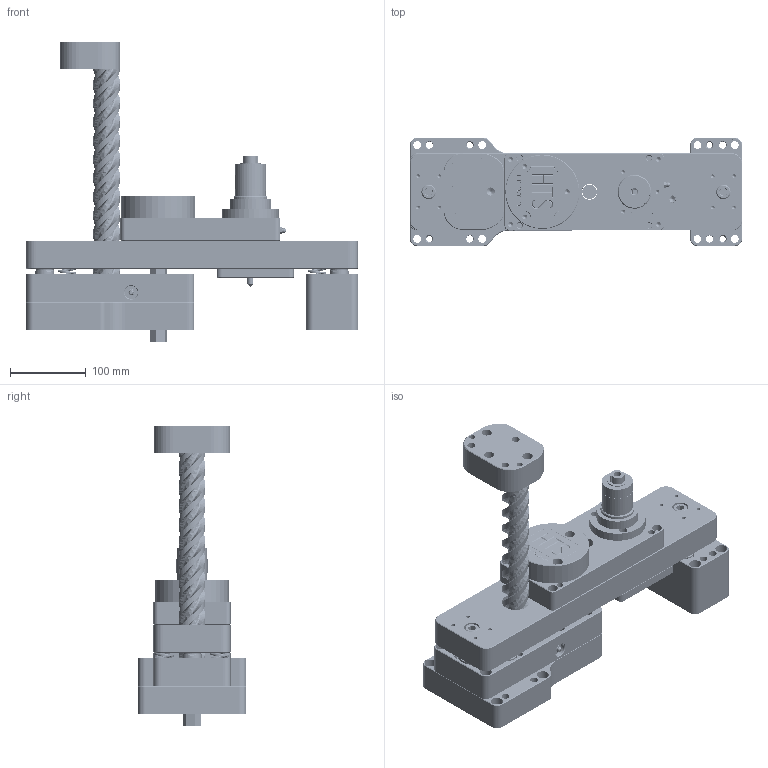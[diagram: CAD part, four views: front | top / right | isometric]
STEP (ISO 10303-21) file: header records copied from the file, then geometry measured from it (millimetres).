
FILE_DESCRIPTION(/* description */ ('Unknown'),/* implementation_level */ '2;1');
FILE_NAME(/* name */ '6100-8instrk',/* time_stamp */ '2018-07-30T07:57:43-04:00',/* author */ ('Unknown'),/* organization */ ('Unknown'),/* preprocessor_version */ 'ST-DEVELOPER v16.7',/* originating_system */ 'DEX',/* authorisation */ $);
FILE_SCHEMA (('AUTOMOTIVE_DESIGN {1 0 10303 214 3 1 1}'));
Products named in the file (28): 6100-000 NEW STD; Tap 5_16-18; 6022-5_16-18; 6020-018; 6025-000; 6119-000; 6107A-000C; 6147-005; 6107B-000C; 6136-M8.0F; 6137A-000-2pstd; 6017-000; 6138-300; BASE-GK95-L_BASE-GK95-L2-E; 6011-008FA; 3_8-16X750_SHCS; 1_2-13X1-1_2 SHCS; 6129-200; RETAININGRING-EXTERNAL-STANDARD; BUSHING-BU-1_0ID-2_0LONG_BUSHIN; 6107C-000-std; 6106B-000-std; 6106A-000-std; 6008-000; 6121-000; 6109-000; 6118A-000; 6012-000
Assembly tree (43 placements, depth 2):
  6100-000 NEW STD
    Tap 5_16-18
    6022-5_16-18
    6020-018
    6025-000
    6119-000
    6107A-000C
    6147-005
    6107B-000C
    6136-M8.0F
    6137A-000-2pstd
    6017-000  x2
    6138-300  x2
    BASE-GK95-L_BASE-GK95-L2-E  x2
    6011-008FA
    3_8-16X750_SHCS  x8
    1_2-13X1-1_2 SHCS  x2
    6129-200  x4
    RETAININGRING-EXTERNAL-STANDARD  x2
    BUSHING-BU-1_0ID-2_0LONG_BUSHIN  x2
    6107C-000-std
    6106B-000-std
    6106A-000-std
    6008-000
    6121-000
    6109-000
    6118A-000
    6012-000
Bounding box: 437.99 x 142.89 x 396.91 mm (x, y, z)
Volume: 5212623.7 mm3; surface area: 887780.7 mm2
Topology: 43 solids, 43 shells, 1480 faces, 4535 edges, 3264 vertices
Faces by surface type: plane 606, cylinder 466, cone 268, bspline 90, torus 46, sphere 4
Full cylindrical faces by diameter (mm): 1.587 x4, 1.981 x4, 4.039 x1, 4.976 x16, 5.004 x1, 5.105 x6, 5.156 x18, 5.954 x2, 6.35 x7, 6.528 x14, 6.805 x3, 7.142 x6, 7.144 x3, 7.541 x2, 7.805 x4, 7.925 x2, 7.938 x36, 8.077 x1, 8.731 x3, 8.733 x8, 8.738 x1, 9.058 x1, 9.525 x4, 9.906 x1, 10.312 x8, 10.317 x22, 10.584 x2, 10.716 x2, 10.719 x2, 11.113 x7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
Entity records: 79405 total; most frequent: CARTESIAN_POINT 47628, DIRECTION 4872, ORIENTED_EDGE 4674, EDGE_CURVE 2337, AXIS2_PLACEMENT_3D 1991, FACE_BOUND 1845, EDGE_LOOP 1814, VERTEX_POINT 1790
